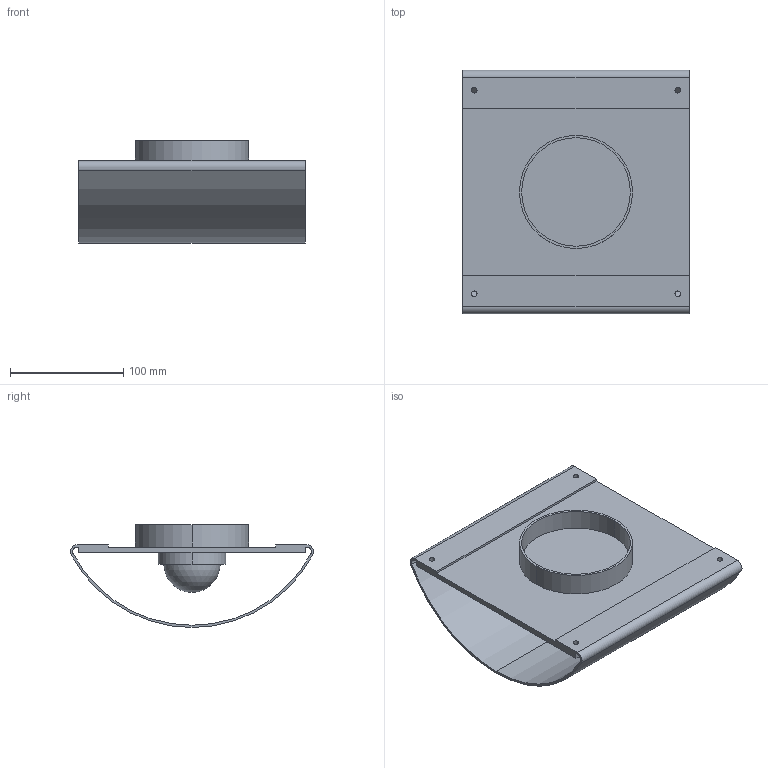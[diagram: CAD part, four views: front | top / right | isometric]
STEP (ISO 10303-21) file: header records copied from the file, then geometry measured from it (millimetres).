
FILE_DESCRIPTION (( 'STEP AP214' ), '1' );
FILE_NAME ('CEBO_A1360.STEP', '2026-06-22T13:10:35', ( '' ), ( '' ), 'SwSTEP 2.0', 'SolidWorks 2023', '' );
FILE_SCHEMA (( 'AUTOMOTIVE_DESIGN' ));
Length unit declared in the file: millimetre
Products named in the file (1): CEBO_A1360
Bounding box: 200 x 215.09 x 91.03 mm (x, y, z)
Volume: 421417.7 mm3; surface area: 219288.6 mm2
Topology: 2 solids, 2 shells, 39 faces, 100 edges, 67 vertices
Faces by surface type: cylinder 22, plane 16, sphere 1
Entity records: 1246 total; most frequent: DIRECTION 224, CARTESIAN_POINT 204, ORIENTED_EDGE 196, EDGE_CURVE 98, AXIS2_PLACEMENT_3D 86, VERTEX_POINT 66, VECTOR 52, LINE 52
